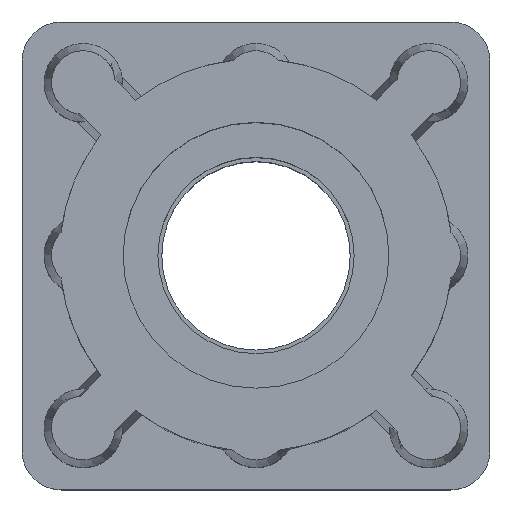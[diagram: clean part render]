
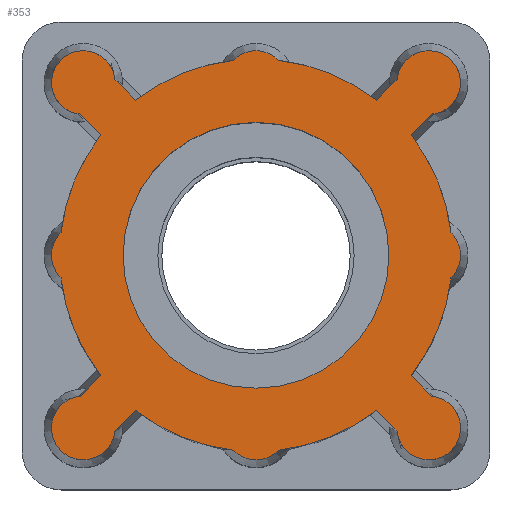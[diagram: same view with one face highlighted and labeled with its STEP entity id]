
A CAD part, top view. The second image highlights one B-rep face of the part: STEP entity #353.
In plain terms, the highlighted planar face has unit normal (0, 0, 1).
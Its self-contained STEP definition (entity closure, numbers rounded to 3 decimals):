
#127=CARTESIAN_POINT('',(11.,11.,25.0));
#128=DIRECTION('',(0.0,0.0,1.0));
#129=DIRECTION('',(1.0,0.0,0.0));
#130=AXIS2_PLACEMENT_3D('',#127,#128,#129);
#131=PLANE('',#130);
#132=CARTESIAN_POINT('',(-9.875,7.664,25.0));
#133=VERTEX_POINT('',#132);
#134=CARTESIAN_POINT('',(-12.416,1.447,25.0));
#135=VERTEX_POINT('',#134);
#136=CARTESIAN_POINT('',(0.,0.,25.0));
#137=DIRECTION('',(0.0,0.0,1.0));
#138=DIRECTION('',(1.0,0.0,0.0));
#139=AXIS2_PLACEMENT_3D('',#136,#137,#138);
#140=CIRCLE('',#139,12.5);
#141=EDGE_CURVE('',#133,#135,#140,.T.);
#142=ORIENTED_EDGE('',*,*,#141,.T.);
#143=CARTESIAN_POINT('',(-12.416,-1.447,25.0));
#144=VERTEX_POINT('',#143);
#145=CARTESIAN_POINT('',(-11.,0.,25.0));
#146=DIRECTION('',(0.0,0.0,1.0));
#147=DIRECTION('',(1.0,0.0,0.0));
#148=AXIS2_PLACEMENT_3D('',#145,#146,#147);
#149=CIRCLE('',#148,2.025);
#150=EDGE_CURVE('',#135,#144,#149,.T.);
#151=ORIENTED_EDGE('',*,*,#150,.T.);
#152=CARTESIAN_POINT('',(-9.875,-7.664,25.0));
#153=VERTEX_POINT('',#152);
#154=CARTESIAN_POINT('',(0.,0.,25.0));
#155=DIRECTION('',(0.0,0.0,1.0));
#156=DIRECTION('',(1.0,0.0,0.0));
#157=AXIS2_PLACEMENT_3D('',#154,#155,#156);
#158=CIRCLE('',#157,12.5);
#159=EDGE_CURVE('',#144,#153,#158,.T.);
#160=ORIENTED_EDGE('',*,*,#159,.T.);
#161=CARTESIAN_POINT('',(-11.196,-8.985,25.0));
#162=VERTEX_POINT('',#161);
#163=CARTESIAN_POINT('',(-7.905,-5.694,25.0));
#164=DIRECTION('',(0.707,0.707,0.0));
#165=VECTOR('',#164,1.);
#166=LINE('',#163,#165);
#167=EDGE_CURVE('',#162,#153,#166,.T.);
#168=ORIENTED_EDGE('',*,*,#167,.F.);
#169=CARTESIAN_POINT('',(-8.985,-11.196,25.0));
#170=VERTEX_POINT('',#169);
#171=CARTESIAN_POINT('',(-11.,-11.,25.0));
#172=DIRECTION('',(0.0,0.0,1.0));
#173=DIRECTION('',(1.0,0.0,0.0));
#174=AXIS2_PLACEMENT_3D('',#171,#172,#173);
#175=CIRCLE('',#174,2.025);
#176=EDGE_CURVE('',#162,#170,#175,.T.);
#177=ORIENTED_EDGE('',*,*,#176,.T.);
#178=CARTESIAN_POINT('',(-7.664,-9.875,25.0));
#179=VERTEX_POINT('',#178);
#180=CARTESIAN_POINT('',(-5.694,-7.905,25.0));
#181=DIRECTION('',(-0.707,-0.707,0.0));
#182=VECTOR('',#181,1.);
#183=LINE('',#180,#182);
#184=EDGE_CURVE('',#170,#179,#183,.F.);
#185=ORIENTED_EDGE('',*,*,#184,.T.);
#186=CARTESIAN_POINT('',(-1.447,-12.416,25.0));
#187=VERTEX_POINT('',#186);
#188=CARTESIAN_POINT('',(0.,0.,25.0));
#189=DIRECTION('',(0.0,0.0,1.0));
#190=DIRECTION('',(1.0,0.0,0.0));
#191=AXIS2_PLACEMENT_3D('',#188,#189,#190);
#192=CIRCLE('',#191,12.5);
#193=EDGE_CURVE('',#179,#187,#192,.T.);
#194=ORIENTED_EDGE('',*,*,#193,.T.);
#195=CARTESIAN_POINT('',(1.447,-12.416,25.0));
#196=VERTEX_POINT('',#195);
#197=CARTESIAN_POINT('',(0.,-11.,25.0));
#198=DIRECTION('',(0.0,0.0,1.0));
#199=DIRECTION('',(1.0,0.0,0.0));
#200=AXIS2_PLACEMENT_3D('',#197,#198,#199);
#201=CIRCLE('',#200,2.025);
#202=EDGE_CURVE('',#187,#196,#201,.T.);
#203=ORIENTED_EDGE('',*,*,#202,.T.);
#204=CARTESIAN_POINT('',(7.664,-9.875,25.0));
#205=VERTEX_POINT('',#204);
#206=CARTESIAN_POINT('',(0.,0.,25.0));
#207=DIRECTION('',(0.0,0.0,1.0));
#208=DIRECTION('',(1.0,0.0,0.0));
#209=AXIS2_PLACEMENT_3D('',#206,#207,#208);
#210=CIRCLE('',#209,12.5);
#211=EDGE_CURVE('',#196,#205,#210,.T.);
#212=ORIENTED_EDGE('',*,*,#211,.T.);
#213=CARTESIAN_POINT('',(8.985,-11.196,25.0));
#214=VERTEX_POINT('',#213);
#215=CARTESIAN_POINT('',(5.694,-7.905,25.0));
#216=DIRECTION('',(-0.707,0.707,0.0));
#217=VECTOR('',#216,1.);
#218=LINE('',#215,#217);
#219=EDGE_CURVE('',#214,#205,#218,.T.);
#220=ORIENTED_EDGE('',*,*,#219,.F.);
#221=CARTESIAN_POINT('',(11.196,-8.985,25.0));
#222=VERTEX_POINT('',#221);
#223=CARTESIAN_POINT('',(11.,-11.,25.0));
#224=DIRECTION('',(0.0,0.0,1.0));
#225=DIRECTION('',(1.0,0.0,0.0));
#226=AXIS2_PLACEMENT_3D('',#223,#224,#225);
#227=CIRCLE('',#226,2.025);
#228=EDGE_CURVE('',#214,#222,#227,.T.);
#229=ORIENTED_EDGE('',*,*,#228,.T.);
#230=CARTESIAN_POINT('',(9.875,-7.664,25.0));
#231=VERTEX_POINT('',#230);
#232=CARTESIAN_POINT('',(7.905,-5.694,25.0));
#233=DIRECTION('',(0.707,-0.707,0.0));
#234=VECTOR('',#233,1.);
#235=LINE('',#232,#234);
#236=EDGE_CURVE('',#222,#231,#235,.F.);
#237=ORIENTED_EDGE('',*,*,#236,.T.);
#238=CARTESIAN_POINT('',(12.416,-1.447,25.0));
#239=VERTEX_POINT('',#238);
#240=CARTESIAN_POINT('',(0.,0.,25.0));
#241=DIRECTION('',(0.0,0.0,1.0));
#242=DIRECTION('',(1.0,0.0,0.0));
#243=AXIS2_PLACEMENT_3D('',#240,#241,#242);
#244=CIRCLE('',#243,12.5);
#245=EDGE_CURVE('',#231,#239,#244,.T.);
#246=ORIENTED_EDGE('',*,*,#245,.T.);
#247=CARTESIAN_POINT('',(12.416,1.447,25.0));
#248=VERTEX_POINT('',#247);
#249=CARTESIAN_POINT('',(11.,0.,25.0));
#250=DIRECTION('',(0.0,0.0,1.0));
#251=DIRECTION('',(1.0,0.0,0.0));
#252=AXIS2_PLACEMENT_3D('',#249,#250,#251);
#253=CIRCLE('',#252,2.025);
#254=EDGE_CURVE('',#239,#248,#253,.T.);
#255=ORIENTED_EDGE('',*,*,#254,.T.);
#256=CARTESIAN_POINT('',(9.875,7.664,25.0));
#257=VERTEX_POINT('',#256);
#258=CARTESIAN_POINT('',(0.,0.,25.0));
#259=DIRECTION('',(0.0,0.0,1.0));
#260=DIRECTION('',(1.0,0.0,0.0));
#261=AXIS2_PLACEMENT_3D('',#258,#259,#260);
#262=CIRCLE('',#261,12.5);
#263=EDGE_CURVE('',#248,#257,#262,.T.);
#264=ORIENTED_EDGE('',*,*,#263,.T.);
#265=CARTESIAN_POINT('',(11.196,8.985,25.0));
#266=VERTEX_POINT('',#265);
#267=CARTESIAN_POINT('',(7.905,5.694,25.0));
#268=DIRECTION('',(-0.707,-0.707,0.0));
#269=VECTOR('',#268,1.);
#270=LINE('',#267,#269);
#271=EDGE_CURVE('',#266,#257,#270,.T.);
#272=ORIENTED_EDGE('',*,*,#271,.F.);
#273=CARTESIAN_POINT('',(8.985,11.196,25.0));
#274=VERTEX_POINT('',#273);
#275=CARTESIAN_POINT('',(11.,11.,25.0));
#276=DIRECTION('',(0.0,0.0,1.0));
#277=DIRECTION('',(1.0,0.0,0.0));
#278=AXIS2_PLACEMENT_3D('',#275,#276,#277);
#279=CIRCLE('',#278,2.025);
#280=EDGE_CURVE('',#266,#274,#279,.T.);
#281=ORIENTED_EDGE('',*,*,#280,.T.);
#282=CARTESIAN_POINT('',(7.664,9.875,25.0));
#283=VERTEX_POINT('',#282);
#284=CARTESIAN_POINT('',(5.694,7.905,25.0));
#285=DIRECTION('',(0.707,0.707,0.0));
#286=VECTOR('',#285,1.);
#287=LINE('',#284,#286);
#288=EDGE_CURVE('',#274,#283,#287,.F.);
#289=ORIENTED_EDGE('',*,*,#288,.T.);
#290=CARTESIAN_POINT('',(1.447,12.416,25.0));
#291=VERTEX_POINT('',#290);
#292=CARTESIAN_POINT('',(0.,0.,25.0));
#293=DIRECTION('',(0.0,0.0,1.0));
#294=DIRECTION('',(1.0,0.0,0.0));
#295=AXIS2_PLACEMENT_3D('',#292,#293,#294);
#296=CIRCLE('',#295,12.5);
#297=EDGE_CURVE('',#283,#291,#296,.T.);
#298=ORIENTED_EDGE('',*,*,#297,.T.);
#299=CARTESIAN_POINT('',(-1.447,12.416,25.0));
#300=VERTEX_POINT('',#299);
#301=CARTESIAN_POINT('',(0.,11.,25.0));
#302=DIRECTION('',(0.0,0.0,1.0));
#303=DIRECTION('',(1.0,0.0,0.0));
#304=AXIS2_PLACEMENT_3D('',#301,#302,#303);
#305=CIRCLE('',#304,2.025);
#306=EDGE_CURVE('',#291,#300,#305,.T.);
#307=ORIENTED_EDGE('',*,*,#306,.T.);
#308=CARTESIAN_POINT('',(-7.664,9.875,25.0));
#309=VERTEX_POINT('',#308);
#310=CARTESIAN_POINT('',(0.,0.,25.0));
#311=DIRECTION('',(0.0,0.0,1.0));
#312=DIRECTION('',(1.0,0.0,0.0));
#313=AXIS2_PLACEMENT_3D('',#310,#311,#312);
#314=CIRCLE('',#313,12.5);
#315=EDGE_CURVE('',#300,#309,#314,.T.);
#316=ORIENTED_EDGE('',*,*,#315,.T.);
#317=CARTESIAN_POINT('',(-8.985,11.196,25.0));
#318=VERTEX_POINT('',#317);
#319=CARTESIAN_POINT('',(-5.694,7.905,25.0));
#320=DIRECTION('',(0.707,-0.707,0.0));
#321=VECTOR('',#320,1.);
#322=LINE('',#319,#321);
#323=EDGE_CURVE('',#318,#309,#322,.T.);
#324=ORIENTED_EDGE('',*,*,#323,.F.);
#325=CARTESIAN_POINT('',(-11.196,8.985,25.0));
#326=VERTEX_POINT('',#325);
#327=CARTESIAN_POINT('',(-11.,11.,25.0));
#328=DIRECTION('',(0.0,0.0,1.0));
#329=DIRECTION('',(1.0,0.0,0.0));
#330=AXIS2_PLACEMENT_3D('',#327,#328,#329);
#331=CIRCLE('',#330,2.025);
#332=EDGE_CURVE('',#318,#326,#331,.T.);
#333=ORIENTED_EDGE('',*,*,#332,.T.);
#334=CARTESIAN_POINT('',(-7.905,5.694,25.0));
#335=DIRECTION('',(-0.707,0.707,0.0));
#336=VECTOR('',#335,1.);
#337=LINE('',#334,#336);
#338=EDGE_CURVE('',#326,#133,#337,.F.);
#339=ORIENTED_EDGE('',*,*,#338,.T.);
#340=EDGE_LOOP('',(#142,#151,#160,#168,#177,#185,#194,#203,#212,#220,#229,#237,#246,#255,#264,#272,#281,#289,#298,#307,#316,#324,#333,#339));
#341=FACE_OUTER_BOUND('',#340,.T.);
#342=CARTESIAN_POINT('',(8.464,0.,25.0));
#343=VERTEX_POINT('',#342);
#344=CARTESIAN_POINT('',(0.,0.,25.0));
#345=DIRECTION('',(0.0,0.0,1.0));
#346=DIRECTION('',(1.0,0.0,0.0));
#347=AXIS2_PLACEMENT_3D('',#344,#345,#346);
#348=CIRCLE('',#347,8.464);
#349=EDGE_CURVE('',#343,#343,#348,.F.);
#350=ORIENTED_EDGE('',*,*,#349,.T.);
#351=EDGE_LOOP('',(#350));
#352=FACE_BOUND('',#351,.T.);
#353=ADVANCED_FACE('',(#341,#352),#131,.T.);
